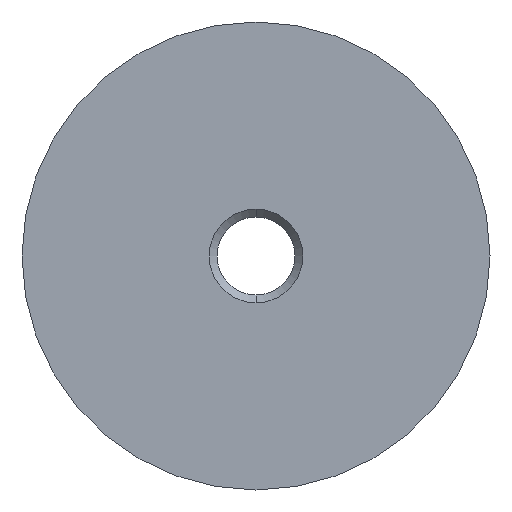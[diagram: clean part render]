
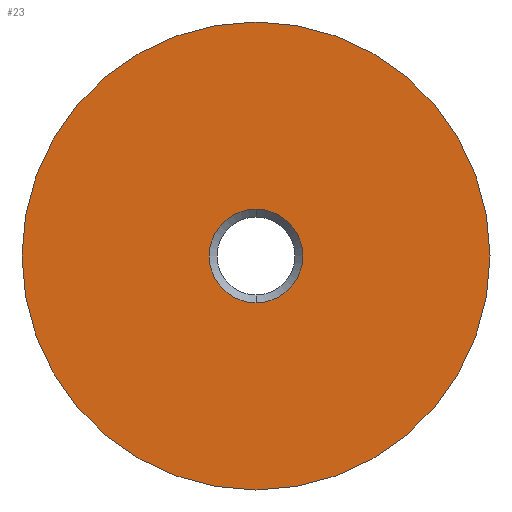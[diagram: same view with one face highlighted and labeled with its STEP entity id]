
A CAD part, front view. The second image highlights one B-rep face of the part: STEP entity #23.
In plain terms, the highlighted planar face has unit normal (0, -1, 0).
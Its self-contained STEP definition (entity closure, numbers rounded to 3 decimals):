
#18 = VERTEX_POINT ( 'NONE', #66 ) ;
#20 = VERTEX_POINT ( 'NONE', #252 ) ;
#23 = ADVANCED_FACE ( 'NONE', ( #275, #59 ), #102, .T. ) ;
#53 = VERTEX_POINT ( 'NONE', #149 ) ;
#59 = FACE_OUTER_BOUND ( 'NONE', #396, .T. ) ;
#63 = DIRECTION ( 'NONE',  ( 0., 0., -1. ) ) ;
#66 = CARTESIAN_POINT ( 'NONE',  ( 15., -5., 0. ) ) ;
#73 = AXIS2_PLACEMENT_3D ( 'NONE', #104, #334, #296 ) ;
#79 = DIRECTION ( 'NONE',  ( 0., 0., -1. ) ) ;
#93 = CARTESIAN_POINT ( 'NONE',  ( 0., -5., 0. ) ) ;
#102 = PLANE ( 'NONE',  #73 ) ;
#104 = CARTESIAN_POINT ( 'NONE',  ( 0., -5., 0. ) ) ;
#105 = DIRECTION ( 'NONE',  ( 0., -1., 0. ) ) ;
#117 = EDGE_CURVE ( 'NONE', #18, #53, #370, .T. ) ;
#140 = VERTEX_POINT ( 'NONE', #336 ) ;
#149 = CARTESIAN_POINT ( 'NONE',  ( -15., -5., 0. ) ) ;
#159 = AXIS2_PLACEMENT_3D ( 'NONE', #413, #210, #175 ) ;
#163 = EDGE_CURVE ( 'NONE', #20, #140, #182, .T. ) ;
#169 = DIRECTION ( 'NONE',  ( 0., -1., 0. ) ) ;
#175 = DIRECTION ( 'NONE',  ( 1., 0., 0. ) ) ;
#182 = CIRCLE ( 'NONE', #260, 3. ) ;
#187 = EDGE_CURVE ( 'NONE', #53, #18, #339, .T. ) ;
#195 = CIRCLE ( 'NONE', #397, 3. ) ;
#202 = DIRECTION ( 'NONE',  ( 1., 0., 0. ) ) ;
#210 = DIRECTION ( 'NONE',  ( 0., -1., 0. ) ) ;
#235 = CARTESIAN_POINT ( 'NONE',  ( 0., -5., 0. ) ) ;
#252 = CARTESIAN_POINT ( 'NONE',  ( 0., -5., 3. ) ) ;
#256 = EDGE_LOOP ( 'NONE', ( #416, #295 ) ) ;
#260 = AXIS2_PLACEMENT_3D ( 'NONE', #235, #105, #79 ) ;
#275 = FACE_BOUND ( 'NONE', #256, .T. ) ;
#283 = DIRECTION ( 'NONE',  ( 0., -1., 0. ) ) ;
#295 = ORIENTED_EDGE ( 'NONE', *, *, #163, .F. ) ;
#296 = DIRECTION ( 'NONE',  ( 1., 0., 0. ) ) ;
#333 = AXIS2_PLACEMENT_3D ( 'NONE', #365, #169, #202 ) ;
#334 = DIRECTION ( 'NONE',  ( 0., -1., 0. ) ) ;
#336 = CARTESIAN_POINT ( 'NONE',  ( 0., -5., -3. ) ) ;
#339 = CIRCLE ( 'NONE', #333, 15. ) ;
#359 = ORIENTED_EDGE ( 'NONE', *, *, #187, .T. ) ;
#365 = CARTESIAN_POINT ( 'NONE',  ( 0., -5., 0. ) ) ;
#370 = CIRCLE ( 'NONE', #159, 15. ) ;
#394 = ORIENTED_EDGE ( 'NONE', *, *, #117, .T. ) ;
#396 = EDGE_LOOP ( 'NONE', ( #359, #394 ) ) ;
#397 = AXIS2_PLACEMENT_3D ( 'NONE', #93, #283, #63 ) ;
#405 = EDGE_CURVE ( 'NONE', #140, #20, #195, .T. ) ;
#413 = CARTESIAN_POINT ( 'NONE',  ( 0., -5., 0. ) ) ;
#416 = ORIENTED_EDGE ( 'NONE', *, *, #405, .F. ) ;
